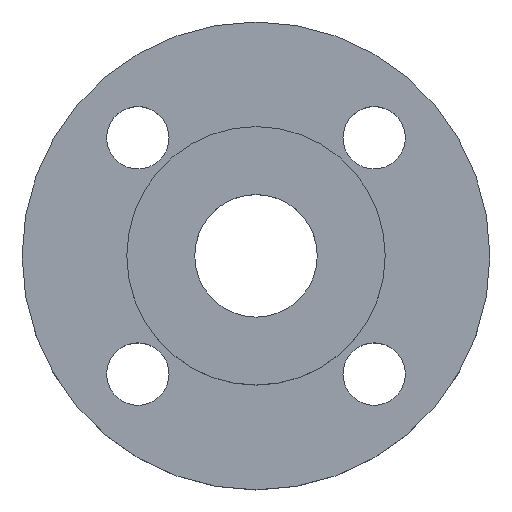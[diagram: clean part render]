
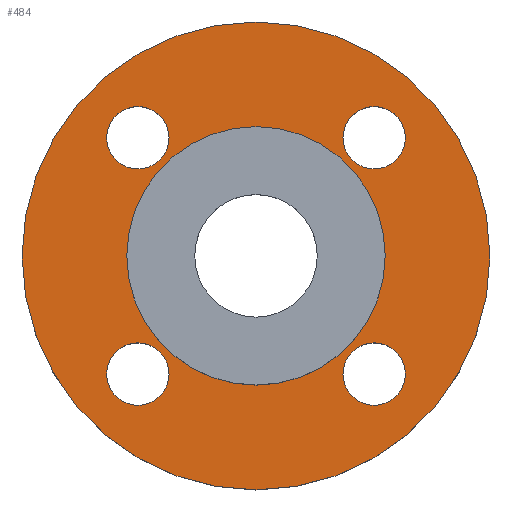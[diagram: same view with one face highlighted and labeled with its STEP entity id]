
A CAD part, top view. The second image highlights one B-rep face of the part: STEP entity #484.
In plain terms, the highlighted planar face has unit normal (0, 0, 1).
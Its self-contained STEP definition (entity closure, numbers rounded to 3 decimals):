
#1 = ORIENTED_EDGE ( 'NONE', *, *, #678, .T. ) ;
#4 = CIRCLE ( 'NONE', #169, 52.5 ) ;
#9 = AXIS2_PLACEMENT_3D ( 'NONE', #195, #198, #194 ) ;
#11 = DIRECTION ( 'NONE',  ( -1., 0., 0. ) ) ;
#16 = CIRCLE ( 'NONE', #83, 7. ) ;
#17 = CARTESIAN_POINT ( 'NONE',  ( -26.517, 26.517, 0. ) ) ;
#18 = DIRECTION ( 'NONE',  ( 0., 0., -1. ) ) ;
#33 = CIRCLE ( 'NONE', #9, 7. ) ;
#36 = DIRECTION ( 'NONE',  ( -1., 0., 0. ) ) ;
#40 = DIRECTION ( 'NONE',  ( 0., 0., -1. ) ) ;
#45 = CARTESIAN_POINT ( 'NONE',  ( -26.517, 26.517, 0. ) ) ;
#80 = CARTESIAN_POINT ( 'NONE',  ( 19.5, 0., 0. ) ) ;
#83 = AXIS2_PLACEMENT_3D ( 'NONE', #45, #40, #36 ) ;
#91 = AXIS2_PLACEMENT_3D ( 'NONE', #204, #231, #143 ) ;
#99 = CIRCLE ( 'NONE', #517, 7. ) ;
#127 = AXIS2_PLACEMENT_3D ( 'NONE', #193, #192, #190 ) ;
#143 = DIRECTION ( 'NONE',  ( -1., 0., 0. ) ) ;
#146 = VERTEX_POINT ( 'NONE', #561 ) ;
#148 = AXIS2_PLACEMENT_3D ( 'NONE', #562, #564, #566 ) ;
#155 = CARTESIAN_POINT ( 'NONE',  ( 33.517, -26.517, 0. ) ) ;
#157 = CARTESIAN_POINT ( 'NONE',  ( 0., 0., 0. ) ) ;
#158 = DIRECTION ( 'NONE',  ( 0., 0., 1. ) ) ;
#159 = AXIS2_PLACEMENT_3D ( 'NONE', #17, #18, #11 ) ;
#163 = DIRECTION ( 'NONE',  ( 1., 0., 0. ) ) ;
#165 = CARTESIAN_POINT ( 'NONE',  ( 26.517, 26.517, 0. ) ) ;
#166 = DIRECTION ( 'NONE',  ( 0., 0., -1. ) ) ;
#169 = AXIS2_PLACEMENT_3D ( 'NONE', #579, #580, #582 ) ;
#170 = DIRECTION ( 'NONE',  ( -1., 0., 0. ) ) ;
#176 = EDGE_CURVE ( 'NONE', #183, #449, #726, .T. ) ;
#180 = CARTESIAN_POINT ( 'NONE',  ( 0., 0., 0. ) ) ;
#183 = VERTEX_POINT ( 'NONE', #572 ) ;
#184 = CIRCLE ( 'NONE', #362, 52.5 ) ;
#185 = DIRECTION ( 'NONE',  ( 0., 0., 1. ) ) ;
#190 = DIRECTION ( 'NONE',  ( -1., 0., 0. ) ) ;
#192 = DIRECTION ( 'NONE',  ( 0., 0., -1. ) ) ;
#193 = CARTESIAN_POINT ( 'NONE',  ( -26.517, -26.517, 0. ) ) ;
#194 = DIRECTION ( 'NONE',  ( -1., 0., 0. ) ) ;
#195 = CARTESIAN_POINT ( 'NONE',  ( 26.517, -26.517, 0. ) ) ;
#198 = DIRECTION ( 'NONE',  ( 0., 0., -1. ) ) ;
#202 = EDGE_CURVE ( 'NONE', #146, #235, #4, .T. ) ;
#204 = CARTESIAN_POINT ( 'NONE',  ( 26.517, -26.517, 0. ) ) ;
#208 = CIRCLE ( 'NONE', #159, 7. ) ;
#225 = DIRECTION ( 'NONE',  ( 1., 0., 0. ) ) ;
#228 = CIRCLE ( 'NONE', #91, 7. ) ;
#231 = DIRECTION ( 'NONE',  ( 0., 0., -1. ) ) ;
#235 = VERTEX_POINT ( 'NONE', #601 ) ;
#237 = CARTESIAN_POINT ( 'NONE',  ( 26.517, 26.517, 0. ) ) ;
#244 = EDGE_LOOP ( 'NONE', ( #334, #335 ) ) ;
#249 = VERTEX_POINT ( 'NONE', #629 ) ;
#251 = VERTEX_POINT ( 'NONE', #631 ) ;
#256 = DIRECTION ( 'NONE',  ( 0., 0., -1. ) ) ;
#261 = DIRECTION ( 'NONE',  ( -1., 0., 0. ) ) ;
#275 = CIRCLE ( 'NONE', #288, 19.5 ) ;
#288 = AXIS2_PLACEMENT_3D ( 'NONE', #180, #185, #225 ) ;
#289 = CIRCLE ( 'NONE', #292, 7. ) ;
#292 = AXIS2_PLACEMENT_3D ( 'NONE', #237, #256, #261 ) ;
#294 = VERTEX_POINT ( 'NONE', #80 ) ;
#302 = EDGE_LOOP ( 'NONE', ( #1, #326 ) ) ;
#308 = VERTEX_POINT ( 'NONE', #155 ) ;
#310 = EDGE_CURVE ( 'NONE', #294, #717, #654, .T. ) ;
#315 = EDGE_CURVE ( 'NONE', #591, #441, #99, .T. ) ;
#320 = EDGE_CURVE ( 'NONE', #717, #294, #275, .T. ) ;
#326 = ORIENTED_EDGE ( 'NONE', *, *, #692, .T. ) ;
#327 = ORIENTED_EDGE ( 'NONE', *, *, #679, .T. ) ;
#328 = ORIENTED_EDGE ( 'NONE', *, *, #176, .T. ) ;
#329 = ORIENTED_EDGE ( 'NONE', *, *, #565, .T. ) ;
#331 = ORIENTED_EDGE ( 'NONE', *, *, #702, .T. ) ;
#332 = ORIENTED_EDGE ( 'NONE', *, *, #315, .T. ) ;
#333 = ORIENTED_EDGE ( 'NONE', *, *, #348, .T. ) ;
#334 = ORIENTED_EDGE ( 'NONE', *, *, #310, .F. ) ;
#335 = ORIENTED_EDGE ( 'NONE', *, *, #320, .F. ) ;
#336 = ORIENTED_EDGE ( 'NONE', *, *, #711, .T. ) ;
#337 = ORIENTED_EDGE ( 'NONE', *, *, #202, .T. ) ;
#348 = EDGE_CURVE ( 'NONE', #441, #591, #289, .T. ) ;
#355 = CARTESIAN_POINT ( 'NONE',  ( 19.517, 26.517, 0. ) ) ;
#356 = CARTESIAN_POINT ( 'NONE',  ( -19.517, -26.517, 0. ) ) ;
#362 = AXIS2_PLACEMENT_3D ( 'NONE', #674, #672, #671 ) ;
#375 = FACE_BOUND ( 'NONE', #302, .T. ) ;
#377 = FACE_BOUND ( 'NONE', #736, .T. ) ;
#378 = FACE_BOUND ( 'NONE', #457, .T. ) ;
#379 = FACE_BOUND ( 'NONE', #426, .T. ) ;
#380 = FACE_BOUND ( 'NONE', #244, .T. ) ;
#381 = FACE_OUTER_BOUND ( 'NONE', #416, .T. ) ;
#382 = PLANE ( 'NONE',  #491 ) ;
#383 = CARTESIAN_POINT ( 'NONE',  ( 0., 0., 0. ) ) ;
#384 = DIRECTION ( 'NONE',  ( 0., 0., 1. ) ) ;
#385 = DIRECTION ( 'NONE',  ( 1., 0., 0. ) ) ;
#416 = EDGE_LOOP ( 'NONE', ( #336, #337 ) ) ;
#426 = EDGE_LOOP ( 'NONE', ( #332, #333 ) ) ;
#441 = VERTEX_POINT ( 'NONE', #355 ) ;
#449 = VERTEX_POINT ( 'NONE', #356 ) ;
#457 = EDGE_LOOP ( 'NONE', ( #329, #331 ) ) ;
#484 = ADVANCED_FACE ( 'NONE', ( #375, #377, #378, #379, #380, #381 ), #382, .T. ) ;
#491 = AXIS2_PLACEMENT_3D ( 'NONE', #383, #384, #385 ) ;
#517 = AXIS2_PLACEMENT_3D ( 'NONE', #165, #166, #170 ) ;
#561 = CARTESIAN_POINT ( 'NONE',  ( -52.5, 0., 0. ) ) ;
#562 = CARTESIAN_POINT ( 'NONE',  ( -26.517, -26.517, 0. ) ) ;
#564 = DIRECTION ( 'NONE',  ( 0., 0., -1. ) ) ;
#565 = EDGE_CURVE ( 'NONE', #249, #731, #208, .T. ) ;
#566 = DIRECTION ( 'NONE',  ( -1., 0., 0. ) ) ;
#572 = CARTESIAN_POINT ( 'NONE',  ( -33.517, -26.517, 0. ) ) ;
#579 = CARTESIAN_POINT ( 'NONE',  ( 0., 0., 0. ) ) ;
#580 = DIRECTION ( 'NONE',  ( 0., 0., 1. ) ) ;
#582 = DIRECTION ( 'NONE',  ( 1., 0., 0. ) ) ;
#591 = VERTEX_POINT ( 'NONE', #669 ) ;
#601 = CARTESIAN_POINT ( 'NONE',  ( 52.5, 0., 0. ) ) ;
#609 = CARTESIAN_POINT ( 'NONE',  ( -33.517, 26.517, 0. ) ) ;
#629 = CARTESIAN_POINT ( 'NONE',  ( -19.517, 26.517, 0. ) ) ;
#631 = CARTESIAN_POINT ( 'NONE',  ( 19.517, -26.517, 0. ) ) ;
#654 = CIRCLE ( 'NONE', #707, 19.5 ) ;
#660 = CARTESIAN_POINT ( 'NONE',  ( -19.5, 0., 0. ) ) ;
#669 = CARTESIAN_POINT ( 'NONE',  ( 33.517, 26.517, 0. ) ) ;
#671 = DIRECTION ( 'NONE',  ( 1., 0., 0. ) ) ;
#672 = DIRECTION ( 'NONE',  ( 0., 0., 1. ) ) ;
#674 = CARTESIAN_POINT ( 'NONE',  ( 0., 0., 0. ) ) ;
#678 = EDGE_CURVE ( 'NONE', #308, #251, #33, .T. ) ;
#679 = EDGE_CURVE ( 'NONE', #449, #183, #694, .T. ) ;
#692 = EDGE_CURVE ( 'NONE', #251, #308, #228, .T. ) ;
#694 = CIRCLE ( 'NONE', #127, 7. ) ;
#702 = EDGE_CURVE ( 'NONE', #731, #249, #16, .T. ) ;
#707 = AXIS2_PLACEMENT_3D ( 'NONE', #157, #158, #163 ) ;
#711 = EDGE_CURVE ( 'NONE', #235, #146, #184, .T. ) ;
#717 = VERTEX_POINT ( 'NONE', #660 ) ;
#726 = CIRCLE ( 'NONE', #148, 7. ) ;
#731 = VERTEX_POINT ( 'NONE', #609 ) ;
#736 = EDGE_LOOP ( 'NONE', ( #327, #328 ) ) ;
